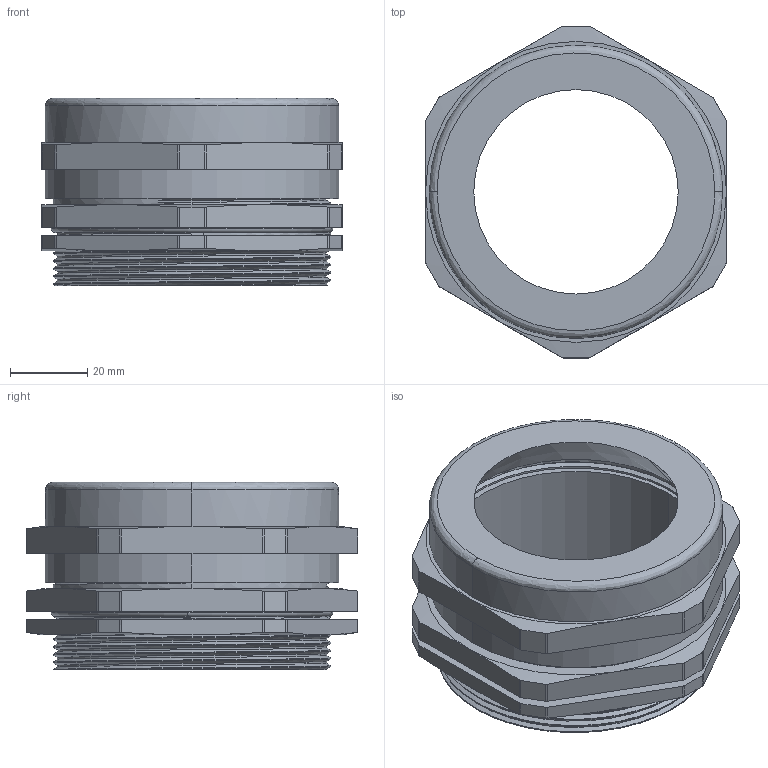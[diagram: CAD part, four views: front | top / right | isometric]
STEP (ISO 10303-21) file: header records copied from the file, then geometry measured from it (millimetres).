
FILE_DESCRIPTION (( 'STEP AP214' ), '1' );
FILE_NAME ('R5BCM72.STEP', '2022-10-11T08:00:25', ( '' ), ( '' ), 'SwSTEP 2.0', 'SolidWorks 2022', '' );
FILE_SCHEMA (( 'AUTOMOTIVE_DESIGN' ));
Length unit declared in the file: millimetre
Products named in the file (5): Корпус_R5BCM72; Уплотнительное кольцо_R5BCM72; R5BCM72; Фиксирующая гайка_R5BCM72; Крышка_R5BCM72
Assembly tree (4 placements, depth 2):
  R5BCM72
    Корпус_R5BCM72
    Уплотнительное кольцо_R5BCM72
    Фиксирующая гайка_R5BCM72
    Крышка_R5BCM72
Bounding box: 78 x 86 x 48.6 mm (x, y, z)
Volume: 54362.1 mm3; surface area: 46805.9 mm2
Topology: 4 solids, 4 shells, 203 faces, 539 edges, 347 vertices
Faces by surface type: cylinder 93, plane 68, cone 22, bspline 14, torus 6
Entity records: 15245 total; most frequent: CARTESIAN_POINT 10490, ORIENTED_EDGE 1078, DIRECTION 834, EDGE_CURVE 539, VERTEX_POINT 347, AXIS2_PLACEMENT_3D 318, EDGE_LOOP 214, ADVANCED_FACE 203
